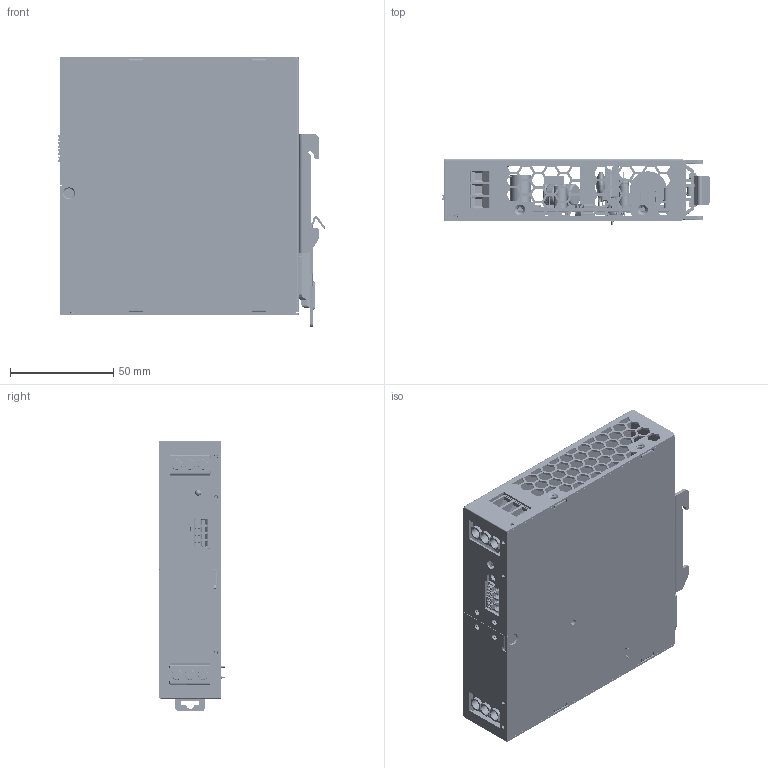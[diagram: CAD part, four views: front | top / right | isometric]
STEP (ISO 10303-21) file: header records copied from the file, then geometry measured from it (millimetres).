
FILE_DESCRIPTION(('Creo Elements/Direct Modeling STEP Export'),'2;1');
FILE_NAME('XDR-75高阶.stp','2025-12-18T 9:56:19',(''),(''),'Creo Elements/Direct Modeling STEP processor for AP214 (Solid Model)','Creo Elements/Direct Modeling 19.0G 27-Nov-2017 (C) Parametric Technology GmbH','');
FILE_SCHEMA(('AUTOMOTIVE_DESIGN { 1 0 10303 214 1 1 1 1 }'));
Length unit declared in the file: millimetre
Products named in the file (972): 下盖; 上盖; 上下盖; BOARD.PRT; DG637-6_35-03P-1Y-00AH.prt.1; DG637-6_35-03P-1Y-00AH.prt.2; DG637-6_35-03P-1Y-00AH.PRT; TB2.ASM; TB1.ASM; 1GG4CU-SZ039.PRT; SZ039.ASM; JF1.ASM; PIN-P7_5_RGB12632256.PRT; CYLINDER-124990.PRT; 842289112.ASM; CYLINDER-125182.PRT; 842289416.ASM; CYLINDER-125374.PRT; 842289720.ASM; CYLINDER-125566.PRT; 842290024.ASM; CYLINDER-125758.PRT; 842290328.ASM; CYLINDER-125950.PRT; 842290632.ASM; CYLINDER-126142.PRT; 842290936.ASM; FS1.ASM; EXTRUDED-126357.PRT; 1FF2.ASM; TP1.ASM; 842299752_1.PRT; 842299752_2.PRT; 842299752_3.PRT; 842299752_4.PRT; 842299752.ASM; R2.ASM; R1.ASM; EXTRUDED-142008.PRT; 2031442960.ASM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
Assembly tree (1388 placements, depth 9):
  XDR-120E
    DG212R-THR-3.5-05P-1Y-1000A_Z(H).1.1
    DG212R-THR-3.5-05P-1Y-1000A_Z(H).1.1.1
    XDR-75A-R0X.step.1.1
      PCB.ASM
        FREE-MODELS.ASM
          PRODUCT_511392.ASM
            FT-63EP_1-704230_PRT.PRT
        HS1.ASM
          1414960016.ASM
            EXTRUDED-511012.PRT
          1414933776.ASM
            EXTRUDED-509704.PRT
          1GG2-MHS059.ASM
            EXTRUDED-505550.PRT
        C131.ASM
          550998920.PRT
        J100.ASM
          550976120.ASM
            550976120_4.PRT
            550976120_3.PRT
            550976120_2.PRT
            550976120_1.PRT
        D133.ASM
          2CDX-SOT23.PRT
        RY1.ASM
          550994816.ASM  x4
            CYLINDER-504856.PRT
          1414953296.ASM
            EXTRUDED-505053.PRT
        TP1A.ASM
          1FF2.ASM
            EXTRUDED-20352.PRT
        RTH2.ASM
          1ARC-SCK-103.ASM
            1ARC-SCK-103_3.PRT
            1ARC-SCK-103_2.PRT
            1ARC-SCK-103_1.PRT
        D12.ASM
          2CDX-SOD323.PRT
        D10.ASM
          647436224.ASM  x2
            EXTRUDED-139824.PRT
          647436064.ASM
            EXTRUDED-139452.PRT
          647435904.ASM
            EXTRUDED-139080.PRT
        D24.ASM
          2CDX-SOD323.PRT
        Q1.ASM
          1414936976.ASM.6  x2
            EXTRUDED-501856.PRT
          1CDX-TO220F-A_AKA_-VT-1_6751473.PRT
          1CDX-TO220F-A_AKA_-VT-1.ASM
            EXTRUDED-494439.PRT
        LED1.ASM
          1CDC-LEDD3GC.ASM
            SW3DPS-LEDD3GC_OPEN_CASCADE_STE.ASM
              SW3DPS-LEDD3GC_355255760.ASM
                SW3DPS-LEDD3GC_EXTRUDED2.PRT
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Bounding box: 129.61 x 32.3 x 131.44 mm (x, y, z)
Volume: 187826.2 mm3; surface area: 241311.4 mm2
Topology: 1186 solids, 1244 shells, 36275 faces, 95486 edges, 62563 vertices
Faces by surface type: plane 22998, extrusion 7435, cylinder 4317, sphere 809, torus 398, bspline 207, cone 96, revolution 15
Entity records: 659747 total; most frequent: CARTESIAN_POINT 223481, ORIENTED_EDGE 79312, DIRECTION 69871, EDGE_CURVE 39704, VECTOR 31914, LINE 30633, VERTEX_POINT 26141, AXIS2_PLACEMENT_3D 18971
